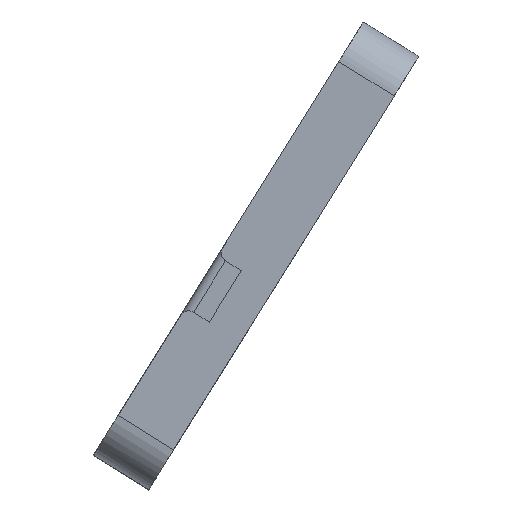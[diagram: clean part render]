
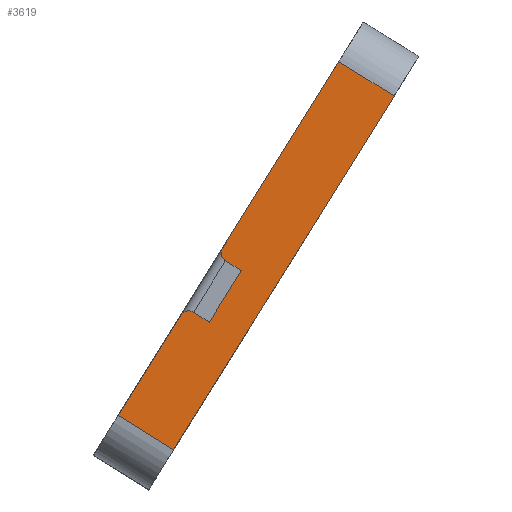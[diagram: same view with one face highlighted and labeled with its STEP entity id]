
A CAD part, front view. The second image highlights one B-rep face of the part: STEP entity #3619.
In plain terms, the highlighted planar face has unit normal (0, -1, 0).
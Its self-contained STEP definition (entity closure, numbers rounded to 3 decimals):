
#3557=AXIS2_PLACEMENT_3D('Plane Axis2P3D',#3554,#3555,#3556) ;
#779=CARTESIAN_POINT('Vertex',(-201.,-1376.001,330.216)) ;
#784=CARTESIAN_POINT('Line Origine',(-199.281,-1376.001,332.974)) ;
#788=CARTESIAN_POINT('Vertex',(-197.561,-1376.001,335.732)) ;
#3300=CARTESIAN_POINT('Vertex',(-187.101,-1376.001,358.188)) ;
#3303=CARTESIAN_POINT('Line Origine',(-179.015,-1376.001,353.148)) ;
#3307=CARTESIAN_POINT('Vertex',(-181.16,-1376.001,354.485)) ;
#3376=CARTESIAN_POINT('Vertex',(-204.841,-1376.002,316.49)) ;
#3379=CARTESIAN_POINT('Line Origine',(-193.001,-1376.001,335.488)) ;
#3460=CARTESIAN_POINT('Vertex',(-210.782,-1376.002,320.193)) ;
#3463=CARTESIAN_POINT('Line Origine',(-212.357,-1376.002,321.175)) ;
#3480=CARTESIAN_POINT('Line Origine',(-201.848,-1376.001,330.745)) ;
#3484=CARTESIAN_POINT('Vertex',(-202.697,-1376.001,331.274)) ;
#3539=CARTESIAN_POINT('Vertex',(-199.259,-1376.001,336.79)) ;
#3542=CARTESIAN_POINT('Line Origine',(-198.41,-1376.001,336.261)) ;
#3554=CARTESIAN_POINT('Axis2P3D Location',(-196.951,-1376.001,369.897)) ;
#3560=CARTESIAN_POINT('Control Point',(-202.697,-1376.001,331.274)) ;
#3561=CARTESIAN_POINT('Control Point',(-202.777,-1376.001,331.324)) ;
#3562=CARTESIAN_POINT('Control Point',(-202.863,-1376.001,331.365)) ;
#3563=CARTESIAN_POINT('Control Point',(-202.954,-1376.001,331.395)) ;
#3564=CARTESIAN_POINT('Control Point',(-203.141,-1376.001,331.433)) ;
#3565=CARTESIAN_POINT('Control Point',(-203.332,-1376.001,331.427)) ;
#3566=CARTESIAN_POINT('Control Point',(-203.426,-1376.001,331.412)) ;
#3567=CARTESIAN_POINT('Control Point',(-203.61,-1376.001,331.361)) ;
#3568=CARTESIAN_POINT('Control Point',(-203.777,-1376.001,331.268)) ;
#3569=CARTESIAN_POINT('Control Point',(-203.854,-1376.001,331.212)) ;
#3570=CARTESIAN_POINT('Control Point',(-203.946,-1376.001,331.127)) ;
#3571=CARTESIAN_POINT('Control Point',(-204.024,-1376.001,331.029)) ;
#3572=CARTESIAN_POINT('Control Point',(-204.042,-1376.001,331.005)) ;
#3573=CARTESIAN_POINT('Control Point',(-204.059,-1376.001,330.98)) ;
#3574=CARTESIAN_POINT('Control Point',(-204.075,-1376.001,330.954)) ;
#3575=CARTESIAN_POINT('Vertex',(-204.075,-1376.001,330.954)) ;
#3578=CARTESIAN_POINT('Line Origine',(-207.428,-1376.001,325.574)) ;
#3583=CARTESIAN_POINT('Line Origine',(-193.34,-1376.001,348.178)) ;
#3587=CARTESIAN_POINT('Vertex',(-199.579,-1376.001,338.168)) ;
#3591=CARTESIAN_POINT('Control Point',(-199.259,-1376.001,336.79)) ;
#3592=CARTESIAN_POINT('Control Point',(-199.339,-1376.001,336.84)) ;
#3593=CARTESIAN_POINT('Control Point',(-199.414,-1376.001,336.9)) ;
#3594=CARTESIAN_POINT('Control Point',(-199.48,-1376.001,336.968)) ;
#3595=CARTESIAN_POINT('Control Point',(-199.597,-1376.001,337.119)) ;
#3596=CARTESIAN_POINT('Control Point',(-199.675,-1376.001,337.293)) ;
#3597=CARTESIAN_POINT('Control Point',(-199.704,-1376.001,337.384)) ;
#3598=CARTESIAN_POINT('Control Point',(-199.739,-1376.001,337.572)) ;
#3599=CARTESIAN_POINT('Control Point',(-199.729,-1376.001,337.762)) ;
#3600=CARTESIAN_POINT('Control Point',(-199.713,-1376.001,337.857)) ;
#3601=CARTESIAN_POINT('Control Point',(-199.677,-1376.001,337.977)) ;
#3602=CARTESIAN_POINT('Control Point',(-199.623,-1376.001,338.09)) ;
#3603=CARTESIAN_POINT('Control Point',(-199.609,-1376.001,338.116)) ;
#3604=CARTESIAN_POINT('Control Point',(-199.594,-1376.001,338.142)) ;
#3605=CARTESIAN_POINT('Control Point',(-199.579,-1376.001,338.168)) ;
#785=DIRECTION('Vector Direction',(-0.529,0.,-0.849)) ;
#3304=DIRECTION('Vector Direction',(-0.849,0.,0.529)) ;
#3380=DIRECTION('Vector Direction',(0.529,0.,0.849)) ;
#3464=DIRECTION('Vector Direction',(-0.849,0.,0.529)) ;
#3481=DIRECTION('Vector Direction',(0.849,0.,-0.529)) ;
#3543=DIRECTION('Vector Direction',(0.849,0.,-0.529)) ;
#3555=DIRECTION('Axis2P3D Direction',(0.,-1.,0.)) ;
#3556=DIRECTION('Axis2P3D XDirection',(0.682,0.,-0.731)) ;
#3579=DIRECTION('Vector Direction',(0.529,0.,0.849)) ;
#3584=DIRECTION('Vector Direction',(0.529,0.,0.849)) ;
#786=VECTOR('Line Direction',#785,1.) ;
#3305=VECTOR('Line Direction',#3304,1.) ;
#3381=VECTOR('Line Direction',#3380,1.) ;
#3465=VECTOR('Line Direction',#3464,1.) ;
#3482=VECTOR('Line Direction',#3481,1.) ;
#3544=VECTOR('Line Direction',#3543,1.) ;
#3580=VECTOR('Line Direction',#3579,1.) ;
#3585=VECTOR('Line Direction',#3584,1.) ;
#3608=ORIENTED_EDGE('',*,*,#3546,.F.) ;
#3609=ORIENTED_EDGE('',*,*,#790,.F.) ;
#3610=ORIENTED_EDGE('',*,*,#3486,.F.) ;
#3611=ORIENTED_EDGE('',*,*,#3577,.F.) ;
#3612=ORIENTED_EDGE('',*,*,#3582,.F.) ;
#3613=ORIENTED_EDGE('',*,*,#3467,.F.) ;
#3614=ORIENTED_EDGE('',*,*,#3383,.T.) ;
#3615=ORIENTED_EDGE('',*,*,#3309,.T.) ;
#3616=ORIENTED_EDGE('',*,*,#3589,.F.) ;
#3617=ORIENTED_EDGE('',*,*,#3606,.F.) ;
#3619=ADVANCED_FACE('MANIFOLD_SOLID_BREP #39',(#3618),#3558,.T.) ;
#3559=B_SPLINE_CURVE_WITH_KNOTS('',5,(#3560,#3561,#3562,#3563,#3564,#3565,#3566,#3567,#3568,#3569,#3570,#3571,#3572,#3573,#3574),.UNSPECIFIED.,.F.,.U.,(6,3,3,3,6),(0.,0.669,1.339,2.009,2.221),.UNSPECIFIED.) ;
#3590=B_SPLINE_CURVE_WITH_KNOTS('',5,(#3591,#3592,#3593,#3594,#3595,#3596,#3597,#3598,#3599,#3600,#3601,#3602,#3603,#3604,#3605),.UNSPECIFIED.,.F.,.U.,(6,3,3,3,6),(0.,0.669,1.339,2.009,2.221),.UNSPECIFIED.) ;
#790=EDGE_CURVE('',#780,#789,#787,.F.) ;
#3309=EDGE_CURVE('',#3308,#3301,#3306,.T.) ;
#3383=EDGE_CURVE('',#3377,#3308,#3382,.T.) ;
#3467=EDGE_CURVE('',#3377,#3461,#3466,.T.) ;
#3486=EDGE_CURVE('',#3485,#780,#3483,.T.) ;
#3546=EDGE_CURVE('',#789,#3540,#3545,.F.) ;
#3577=EDGE_CURVE('',#3576,#3485,#3559,.F.) ;
#3582=EDGE_CURVE('',#3461,#3576,#3581,.T.) ;
#3589=EDGE_CURVE('',#3588,#3301,#3586,.T.) ;
#3606=EDGE_CURVE('',#3540,#3588,#3590,.T.) ;
#3607=EDGE_LOOP('',(#3608,#3609,#3610,#3611,#3612,#3613,#3614,#3615,#3616,#3617)) ;
#3618=FACE_OUTER_BOUND('',#3607,.T.) ;
#787=LINE('Line',#784,#786) ;
#3306=LINE('Line',#3303,#3305) ;
#3382=LINE('Line',#3379,#3381) ;
#3466=LINE('Line',#3463,#3465) ;
#3483=LINE('Line',#3480,#3482) ;
#3545=LINE('Line',#3542,#3544) ;
#3581=LINE('Line',#3578,#3580) ;
#3586=LINE('Line',#3583,#3585) ;
#3558=PLANE('Plane',#3557) ;
#780=VERTEX_POINT('',#779) ;
#789=VERTEX_POINT('',#788) ;
#3301=VERTEX_POINT('',#3300) ;
#3308=VERTEX_POINT('',#3307) ;
#3377=VERTEX_POINT('',#3376) ;
#3461=VERTEX_POINT('',#3460) ;
#3485=VERTEX_POINT('',#3484) ;
#3540=VERTEX_POINT('',#3539) ;
#3576=VERTEX_POINT('',#3575) ;
#3588=VERTEX_POINT('',#3587) ;
